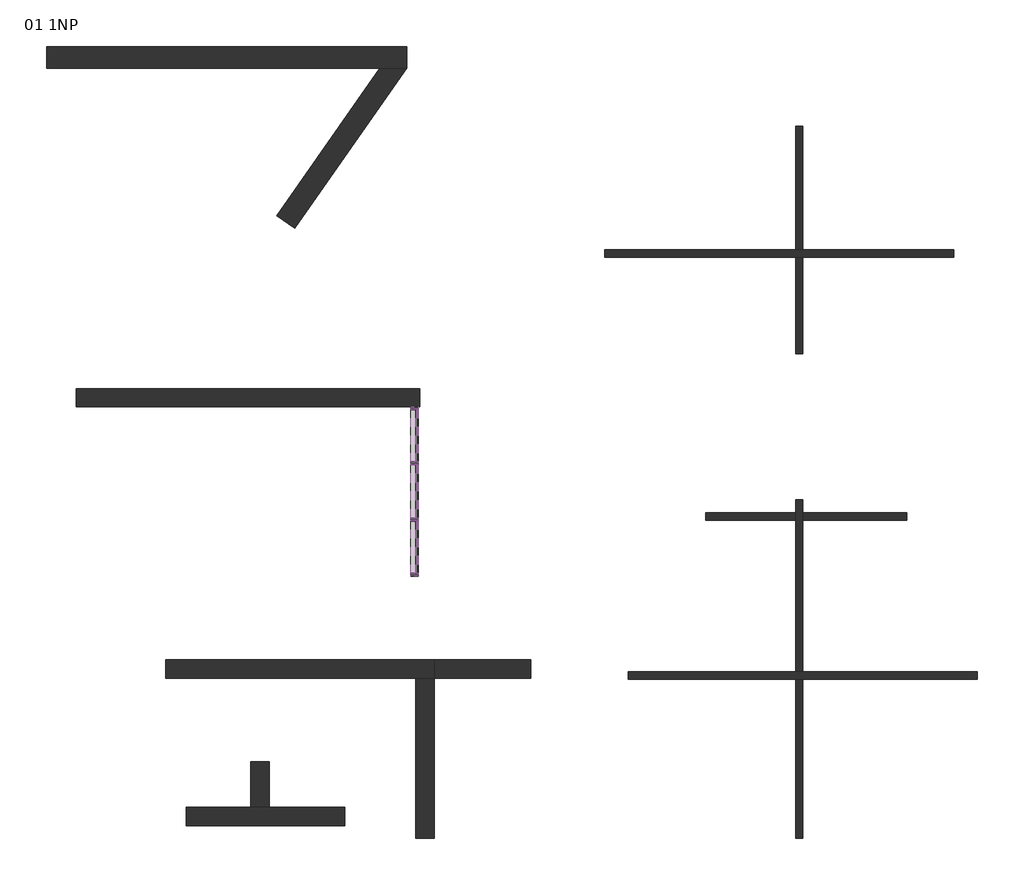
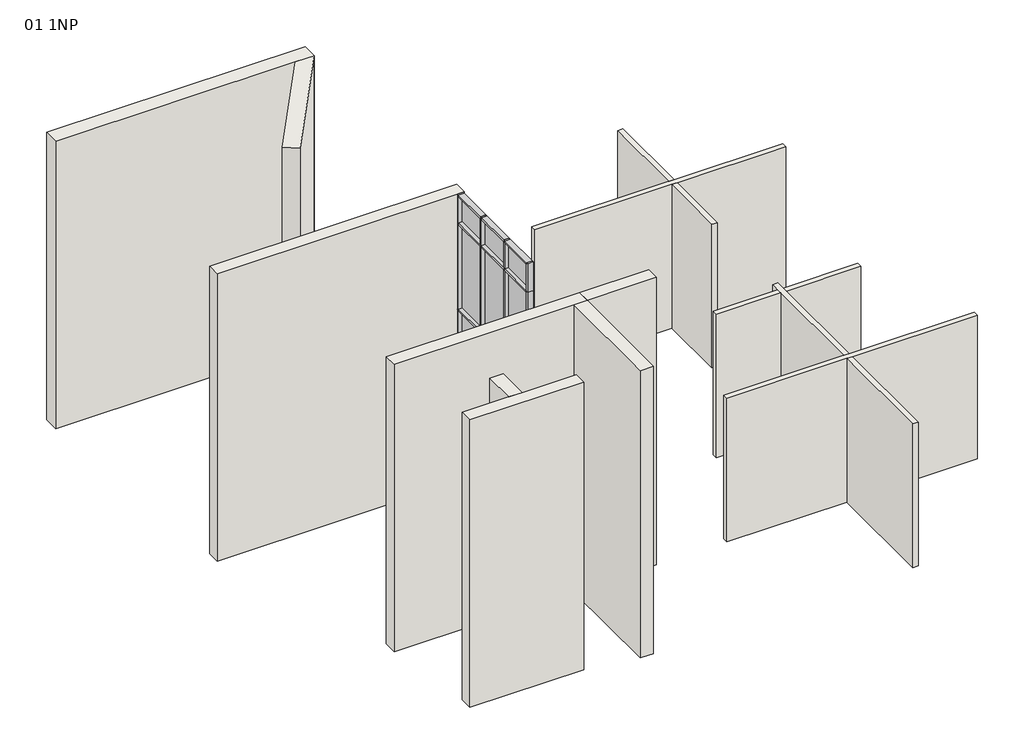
# One storey: 31 members, 14 walls, 12 plates.
"""IFC4 building model written with IfcOpenShell, lengths in millimetres."""

from ifc_helpers import new_model, si_unit, origin, origin_with_axes, place, context, project, spatial, polyline, outline, extrude, faceted_brep, transform, mapped, element, save
from components import rectangular_mullion_50_x_150mm_e14efa60, rectangular_mullion_50_x_150mm_992fb0bb, rectangular_mullion_50_x_150mm_ae8d583d, rectangular_mullion_50_x_150mm_b795b8ac, rectangular_mullion_50_x_150mm_6225e4e3, rectangular_mullion_50_x_150mm_14f10ac7, rectangular_mullion_50_x_150mm_662c37b1, rectangular_mullion_50_x_150mm_6ffebc0f, system_panel_glazed_8dd02efa, system_panel_glazed_773a8fa9, system_panel_glazed_e41b610d, system_panel_glazed_fe8bebd6, system_panel_glazed_96c1c5f2, system_panel_glazed_4c0efa74

model = new_model("IFC4")

# Units and contexts
model_context = context("Model", 3, world=origin())
ifc_project = project(units=[si_unit("LENGTHUNIT", "METRE", prefix="MILLI")], contexts=[model_context])

# Site, building, storey
site = spatial("IfcSite", under=ifc_project)
building = spatial("IfcBuilding", under=site)
storey = spatial("IfcBuildingStorey", under=building, Name="01 1NP", Elevation=0.0)

# Members
placement = place(None, origin())
rectangular_mullion_50_x_150mm_shape = rectangular_mullion_50_x_150mm_e14efa60(model_context)
element("IfcMember", 1, ObjectType="Rectangular Mullion : 50 x 150mm", at=placement, inside=storey, context=model_context, shape_type="MappedRepresentation", body=[
    mapped(rectangular_mullion_50_x_150mm_shape, transform((34112.6661728, 11548.4674082, 8000.0), x_axis=(0.0, 0.0, 1.0), y_axis=(-1.0, 0.0, 0.0), z_axis=(0.0, -1.0, 0.0))),
])
element("IfcMember", 2, ObjectType="Rectangular Mullion : 50 x 150mm", at=placement, inside=storey, context=model_context, shape_type="MappedRepresentation", body=[
    mapped(rectangular_mullion_50_x_150mm_shape, transform((34112.6661728, 13656.8007416, 8000.0), x_axis=(0.0, 0.0, 1.0), y_axis=(-1.0, 0.0, 0.0), z_axis=(0.0, -1.0, 0.0))),
])
rectangular_mullion_50_x_150mm_2_shape = rectangular_mullion_50_x_150mm_992fb0bb(model_context)
element("IfcMember", 3, ObjectType="Rectangular Mullion : 50 x 150mm", at=placement, inside=storey, context=model_context, shape_type="MappedRepresentation", body=[
    mapped(rectangular_mullion_50_x_150mm_2_shape, transform((34112.6661728, 12590.1340749, 8000.0), x_axis=(0.0, 0.0, 1.0), y_axis=(-1.0, 0.0, 0.0), z_axis=(0.0, -1.0, 0.0))),
])
element("IfcMember", 4, ObjectType="Rectangular Mullion : 50 x 150mm", at=placement, inside=storey, context=model_context, shape_type="MappedRepresentation", body=[
    mapped(rectangular_mullion_50_x_150mm_shape, transform((34112.6661728, 14648.4674082, 0.0), x_axis=(0.0, 0.0, -1.0), y_axis=(-1.0, 0.0, 0.0), z_axis=(0.0, 1.0, 0.0))),
])
element("IfcMember", 5, ObjectType="Rectangular Mullion : 50 x 150mm", at=placement, inside=storey, context=model_context, shape_type="MappedRepresentation", body=[
    mapped(rectangular_mullion_50_x_150mm_shape, transform((34112.6661728, 12540.1340749, 0.0), x_axis=(0.0, 0.0, -1.0), y_axis=(-1.0, 0.0, 0.0), z_axis=(0.0, 1.0, 0.0))),
])
element("IfcMember", 6, ObjectType="Rectangular Mullion : 50 x 150mm", at=placement, inside=storey, context=model_context, shape_type="MappedRepresentation", body=[
    mapped(rectangular_mullion_50_x_150mm_2_shape, transform((34112.6661728, 13606.8007416, 0.0), x_axis=(0.0, 0.0, -1.0), y_axis=(-1.0, 0.0, 0.0), z_axis=(0.0, 1.0, 0.0))),
])
rectangular_mullion_50_x_150mm_3_shape = rectangular_mullion_50_x_150mm_ae8d583d(model_context)
element("IfcMember", 7, ObjectType="Rectangular Mullion : 50 x 150mm", at=placement, inside=storey, context=model_context, shape_type="MappedRepresentation", body=[
    mapped(rectangular_mullion_50_x_150mm_3_shape, transform((34112.6661728, 13656.8007416, 2400.0), x_axis=(0.0, 0.0, 1.0), y_axis=(-1.0, 0.0, 0.0), z_axis=(0.0, -1.0, 0.0))),
])
element("IfcMember", 8, ObjectType="Rectangular Mullion : 50 x 150mm", at=placement, inside=storey, context=model_context, shape_type="MappedRepresentation", body=[
    mapped(rectangular_mullion_50_x_150mm_3_shape, transform((34112.6661728, 11548.4674082, 2400.0), x_axis=(0.0, 0.0, 1.0), y_axis=(-1.0, 0.0, 0.0), z_axis=(0.0, -1.0, 0.0))),
])
element("IfcMember", 9, ObjectType="Rectangular Mullion : 50 x 150mm", at=placement, inside=storey, context=model_context, shape_type="MappedRepresentation", body=[
    mapped(rectangular_mullion_50_x_150mm_3_shape, transform((34112.6661728, 13656.8007416, 4800.0), x_axis=(0.0, 0.0, 1.0), y_axis=(-1.0, 0.0, 0.0), z_axis=(0.0, -1.0, 0.0))),
])
element("IfcMember", 10, ObjectType="Rectangular Mullion : 50 x 150mm", at=placement, inside=storey, context=model_context, shape_type="MappedRepresentation", body=[
    mapped(rectangular_mullion_50_x_150mm_3_shape, transform((34112.6661728, 11548.4674082, 4800.0), x_axis=(0.0, 0.0, 1.0), y_axis=(-1.0, 0.0, 0.0), z_axis=(0.0, -1.0, 0.0))),
])
element("IfcMember", 11, ObjectType="Rectangular Mullion : 50 x 150mm", at=placement, inside=storey, context=model_context, shape_type="MappedRepresentation", body=[
    mapped(rectangular_mullion_50_x_150mm_3_shape, transform((34112.6661728, 13656.8007416, 7200.0), x_axis=(0.0, 0.0, 1.0), y_axis=(-1.0, 0.0, 0.0), z_axis=(0.0, -1.0, 0.0))),
])
element("IfcMember", 12, ObjectType="Rectangular Mullion : 50 x 150mm", at=placement, inside=storey, context=model_context, shape_type="MappedRepresentation", body=[
    mapped(rectangular_mullion_50_x_150mm_3_shape, transform((34112.6661728, 11548.4674082, 7200.0), x_axis=(0.0, 0.0, 1.0), y_axis=(-1.0, 0.0, 0.0), z_axis=(0.0, -1.0, 0.0))),
])
rectangular_mullion_50_x_150mm_4_shape = rectangular_mullion_50_x_150mm_b795b8ac(model_context)
element("IfcMember", 13, ObjectType="Rectangular Mullion : 50 x 150mm", at=placement, inside=storey, context=model_context, shape_type="MappedRepresentation", body=[
    mapped(rectangular_mullion_50_x_150mm_4_shape, transform((34112.6661728, 12590.1340749, 2400.0), x_axis=(0.0, 0.0, 1.0), y_axis=(-1.0, 0.0, 0.0), z_axis=(0.0, -1.0, 0.0))),
])
element("IfcMember", 14, ObjectType="Rectangular Mullion : 50 x 150mm", at=placement, inside=storey, context=model_context, shape_type="MappedRepresentation", body=[
    mapped(rectangular_mullion_50_x_150mm_4_shape, transform((34112.6661728, 12590.1340749, 4800.0), x_axis=(0.0, 0.0, 1.0), y_axis=(-1.0, 0.0, 0.0), z_axis=(0.0, -1.0, 0.0))),
])
element("IfcMember", 15, ObjectType="Rectangular Mullion : 50 x 150mm", at=placement, inside=storey, context=model_context, shape_type="MappedRepresentation", body=[
    mapped(rectangular_mullion_50_x_150mm_4_shape, transform((34112.6661728, 12590.1340749, 7200.0), x_axis=(0.0, 0.0, 1.0), y_axis=(-1.0, 0.0, 0.0), z_axis=(0.0, -1.0, 0.0))),
])
rectangular_mullion_50_x_150mm_5_shape = rectangular_mullion_50_x_150mm_6225e4e3(model_context)
element("IfcMember", 16, ObjectType="Rectangular Mullion : 50 x 150mm", at=placement, inside=storey, context=model_context, shape_type="MappedRepresentation", body=[
    mapped(rectangular_mullion_50_x_150mm_5_shape, transform((34112.6661728, 13631.8007416, 0.0), x_axis=(0.0, -1.0, 0.0), y_axis=(-1.0, 0.0, 0.0), z_axis=(0.0, 0.0, -1.0))),
])
element("IfcMember", 17, ObjectType="Rectangular Mullion : 50 x 150mm", at=placement, inside=storey, context=model_context, shape_type="MappedRepresentation", body=[
    mapped(rectangular_mullion_50_x_150mm_5_shape, transform((34112.6661728, 12565.1340749, 0.0), x_axis=(0.0, -1.0, 0.0), y_axis=(-1.0, 0.0, 0.0), z_axis=(0.0, 0.0, -1.0))),
])
element("IfcMember", 18, ObjectType="Rectangular Mullion : 50 x 150mm", at=placement, inside=storey, context=model_context, shape_type="MappedRepresentation", body=[
    mapped(rectangular_mullion_50_x_150mm_5_shape, transform((34112.6661728, 13631.8007416, 2400.0), x_axis=(0.0, -1.0, 0.0), y_axis=(-1.0, 0.0, 0.0), z_axis=(0.0, 0.0, -1.0))),
])
element("IfcMember", 19, ObjectType="Rectangular Mullion : 50 x 150mm", at=placement, inside=storey, context=model_context, shape_type="MappedRepresentation", body=[
    mapped(rectangular_mullion_50_x_150mm_5_shape, transform((34112.6661728, 12565.1340749, 2400.0), x_axis=(0.0, -1.0, 0.0), y_axis=(-1.0, 0.0, 0.0), z_axis=(0.0, 0.0, -1.0))),
])
element("IfcMember", 20, ObjectType="Rectangular Mullion : 50 x 150mm", at=placement, inside=storey, context=model_context, shape_type="MappedRepresentation", body=[
    mapped(rectangular_mullion_50_x_150mm_5_shape, transform((34112.6661728, 13631.8007416, 4800.0), x_axis=(0.0, -1.0, 0.0), y_axis=(-1.0, 0.0, 0.0), z_axis=(0.0, 0.0, -1.0))),
])
element("IfcMember", 21, ObjectType="Rectangular Mullion : 50 x 150mm", at=placement, inside=storey, context=model_context, shape_type="MappedRepresentation", body=[
    mapped(rectangular_mullion_50_x_150mm_5_shape, transform((34112.6661728, 12565.1340749, 4800.0), x_axis=(0.0, -1.0, 0.0), y_axis=(-1.0, 0.0, 0.0), z_axis=(0.0, 0.0, -1.0))),
])
rectangular_mullion_50_x_150mm_6_shape = rectangular_mullion_50_x_150mm_14f10ac7(model_context)
element("IfcMember", 22, ObjectType="Rectangular Mullion : 50 x 150mm", at=placement, inside=storey, context=model_context, shape_type="MappedRepresentation", body=[
    mapped(rectangular_mullion_50_x_150mm_6_shape, transform((34112.6661728, 13631.8007416, 7200.0), x_axis=(0.0, -1.0, 0.0), y_axis=(-1.0, 0.0, 0.0), z_axis=(0.0, 0.0, -1.0))),
])
element("IfcMember", 23, ObjectType="Rectangular Mullion : 50 x 150mm", at=placement, inside=storey, context=model_context, shape_type="MappedRepresentation", body=[
    mapped(rectangular_mullion_50_x_150mm_6_shape, transform((34112.6661728, 12565.1340749, 7200.0), x_axis=(0.0, -1.0, 0.0), y_axis=(-1.0, 0.0, 0.0), z_axis=(0.0, 0.0, -1.0))),
])
rectangular_mullion_50_x_150mm_7_shape = rectangular_mullion_50_x_150mm_662c37b1(model_context)
element("IfcMember", 24, ObjectType="Rectangular Mullion : 50 x 150mm", at=placement, inside=storey, context=model_context, shape_type="MappedRepresentation", body=[
    mapped(rectangular_mullion_50_x_150mm_7_shape, transform((34112.6661728, 11498.4674082, 0.0), x_axis=(0.0, -1.0, 0.0), y_axis=(-1.0, 0.0, 0.0), z_axis=(0.0, 0.0, -1.0))),
])
element("IfcMember", 25, ObjectType="Rectangular Mullion : 50 x 150mm", at=placement, inside=storey, context=model_context, shape_type="MappedRepresentation", body=[
    mapped(rectangular_mullion_50_x_150mm_7_shape, transform((34112.6661728, 11498.4674082, 2400.0), x_axis=(0.0, -1.0, 0.0), y_axis=(-1.0, 0.0, 0.0), z_axis=(0.0, 0.0, -1.0))),
])
element("IfcMember", 26, ObjectType="Rectangular Mullion : 50 x 150mm", at=placement, inside=storey, context=model_context, shape_type="MappedRepresentation", body=[
    mapped(rectangular_mullion_50_x_150mm_7_shape, transform((34112.6661728, 11498.4674082, 4800.0), x_axis=(0.0, -1.0, 0.0), y_axis=(-1.0, 0.0, 0.0), z_axis=(0.0, 0.0, -1.0))),
])
rectangular_mullion_50_x_150mm_8_shape = rectangular_mullion_50_x_150mm_6ffebc0f(model_context)
element("IfcMember", 27, ObjectType="Rectangular Mullion : 50 x 150mm", at=placement, inside=storey, context=model_context, shape_type="MappedRepresentation", body=[
    mapped(rectangular_mullion_50_x_150mm_8_shape, transform((34112.6661728, 11498.4674082, 7200.0), x_axis=(0.0, -1.0, 0.0), y_axis=(-1.0, 0.0, 0.0), z_axis=(0.0, 0.0, -1.0))),
])
element("IfcMember", 28, ObjectType="Rectangular Mullion : 50 x 150mm", at=placement, inside=storey, context=model_context, shape_type="MappedRepresentation", body=[
    mapped(rectangular_mullion_50_x_150mm_8_shape, transform((34112.6661728, 14698.4674082, 8000.0), x_axis=(0.0, 1.0, 0.0), y_axis=(-1.0, 0.0, 0.0), z_axis=(0.0, 0.0, 1.0))),
])
element("IfcMember", 29, ObjectType="Rectangular Mullion : 50 x 150mm", at=placement, inside=storey, context=model_context, shape_type="MappedRepresentation", body=[
    mapped(rectangular_mullion_50_x_150mm_7_shape, transform((34112.6661728, 14698.4674082, 2400.0), x_axis=(0.0, 1.0, 0.0), y_axis=(-1.0, 0.0, 0.0), z_axis=(0.0, 0.0, 1.0))),
])
element("IfcMember", 30, ObjectType="Rectangular Mullion : 50 x 150mm", at=placement, inside=storey, context=model_context, shape_type="MappedRepresentation", body=[
    mapped(rectangular_mullion_50_x_150mm_7_shape, transform((34112.6661728, 14698.4674082, 4800.0), x_axis=(0.0, 1.0, 0.0), y_axis=(-1.0, 0.0, 0.0), z_axis=(0.0, 0.0, 1.0))),
])
element("IfcMember", 31, ObjectType="Rectangular Mullion : 50 x 150mm", at=placement, inside=storey, context=model_context, shape_type="MappedRepresentation", body=[
    mapped(rectangular_mullion_50_x_150mm_7_shape, transform((34112.6661728, 14698.4674082, 7200.0), x_axis=(0.0, 1.0, 0.0), y_axis=(-1.0, 0.0, 0.0), z_axis=(0.0, 0.0, 1.0))),
])

# Plates
system_panel_glazed_shape = system_panel_glazed_8dd02efa(model_context)
element("IfcPlate", 32, ObjectType="System Panel : Glazed", at=placement, inside=storey, context=model_context, shape_type="MappedRepresentation", body=[
    mapped(system_panel_glazed_shape, transform((34112.6661728, 14152.6340749, 50.0), x_axis=(0.0, -1.0, 0.0), y_axis=(1.0, 0.0, 0.0), z_axis=(0.0, 0.0, 1.0))),
])
element("IfcPlate", 33, ObjectType="System Panel : Glazed", at=placement, inside=storey, context=model_context, shape_type="MappedRepresentation", body=[
    mapped(system_panel_glazed_shape, transform((34112.6661728, 12044.3007416, 50.0), x_axis=(0.0, -1.0, 0.0), y_axis=(1.0, 0.0, 0.0), z_axis=(0.0, 0.0, 1.0))),
])
system_panel_glazed_2_shape = system_panel_glazed_773a8fa9(model_context)
element("IfcPlate", 34, ObjectType="System Panel : Glazed", at=placement, inside=storey, context=model_context, shape_type="MappedRepresentation", body=[
    mapped(system_panel_glazed_2_shape, transform((34112.6661728, 13098.4674082, 50.0), x_axis=(0.0, -1.0, 0.0), y_axis=(1.0, 0.0, 0.0), z_axis=(0.0, 0.0, 1.0))),
])
system_panel_glazed_3_shape = system_panel_glazed_e41b610d(model_context)
element("IfcPlate", 35, ObjectType="System Panel : Glazed", at=placement, inside=storey, context=model_context, shape_type="MappedRepresentation", body=[
    mapped(system_panel_glazed_3_shape, transform((34112.6661728, 14152.6340749, 2425.0), x_axis=(0.0, -1.0, 0.0), y_axis=(1.0, 0.0, 0.0), z_axis=(0.0, 0.0, 1.0))),
])
element("IfcPlate", 36, ObjectType="System Panel : Glazed", at=placement, inside=storey, context=model_context, shape_type="MappedRepresentation", body=[
    mapped(system_panel_glazed_3_shape, transform((34112.6661728, 12044.3007416, 2425.0), x_axis=(0.0, -1.0, 0.0), y_axis=(1.0, 0.0, 0.0), z_axis=(0.0, 0.0, 1.0))),
])
element("IfcPlate", 37, ObjectType="System Panel : Glazed", at=placement, inside=storey, context=model_context, shape_type="MappedRepresentation", body=[
    mapped(system_panel_glazed_3_shape, transform((34112.6661728, 14152.6340749, 4825.0), x_axis=(0.0, -1.0, 0.0), y_axis=(1.0, 0.0, 0.0), z_axis=(0.0, 0.0, 1.0))),
])
element("IfcPlate", 38, ObjectType="System Panel : Glazed", at=placement, inside=storey, context=model_context, shape_type="MappedRepresentation", body=[
    mapped(system_panel_glazed_3_shape, transform((34112.6661728, 12044.3007416, 4825.0), x_axis=(0.0, -1.0, 0.0), y_axis=(1.0, 0.0, 0.0), z_axis=(0.0, 0.0, 1.0))),
])
system_panel_glazed_4_shape = system_panel_glazed_fe8bebd6(model_context)
element("IfcPlate", 39, ObjectType="System Panel : Glazed", at=placement, inside=storey, context=model_context, shape_type="MappedRepresentation", body=[
    mapped(system_panel_glazed_4_shape, transform((34112.6661728, 13098.4674082, 2425.0), x_axis=(0.0, -1.0, 0.0), y_axis=(1.0, 0.0, 0.0), z_axis=(0.0, 0.0, 1.0))),
])
element("IfcPlate", 40, ObjectType="System Panel : Glazed", at=placement, inside=storey, context=model_context, shape_type="MappedRepresentation", body=[
    mapped(system_panel_glazed_4_shape, transform((34112.6661728, 13098.4674082, 4825.0), x_axis=(0.0, -1.0, 0.0), y_axis=(1.0, 0.0, 0.0), z_axis=(0.0, 0.0, 1.0))),
])
system_panel_glazed_5_shape = system_panel_glazed_96c1c5f2(model_context)
element("IfcPlate", 41, ObjectType="System Panel : Glazed", at=placement, inside=storey, context=model_context, shape_type="MappedRepresentation", body=[
    mapped(system_panel_glazed_5_shape, transform((34112.6661728, 14152.6340749, 7225.0), x_axis=(0.0, -1.0, 0.0), y_axis=(1.0, 0.0, 0.0), z_axis=(0.0, 0.0, 1.0))),
])
element("IfcPlate", 42, ObjectType="System Panel : Glazed", at=placement, inside=storey, context=model_context, shape_type="MappedRepresentation", body=[
    mapped(system_panel_glazed_5_shape, transform((34112.6661728, 12044.3007416, 7225.0), x_axis=(0.0, -1.0, 0.0), y_axis=(1.0, 0.0, 0.0), z_axis=(0.0, 0.0, 1.0))),
])
system_panel_glazed_6_shape = system_panel_glazed_4c0efa74(model_context)
element("IfcPlate", 43, ObjectType="System Panel : Glazed", at=placement, inside=storey, context=model_context, shape_type="MappedRepresentation", body=[
    mapped(system_panel_glazed_6_shape, transform((34112.6661728, 13098.4674082, 7225.0), x_axis=(0.0, -1.0, 0.0), y_axis=(1.0, 0.0, 0.0), z_axis=(0.0, 0.0, 1.0))),
])

# Walls
element("IfcWall", 44, ObjectType="Vnejsi - Cihla na kov.skeletu", at=placement, inside=storey, context=model_context, shape_type="Brep", body=[
    faceted_brep([(29409.371621, 9563.1265002, 0.0), (34137.6661728, 9563.1265002, 0.0), (34487.6661728, 9563.1265002, 0.0), (34487.6661728, 9563.1265002, 8000.0), (34137.6661728, 9563.1265002, 8000.0), (29409.371621, 9563.1265002, 8000.0), (29409.371621, 9913.1265002, 0.0), (29409.371621, 9913.1265002, 8000.0), (34487.6661728, 9913.1265002, 8000.0), (34487.6661728, 9913.1265002, 0.0)], [[[0, 1, 2, 3, 4, 5]], [[6, 7, 8, 9]], [[2, 1, 0, 6, 9]], [[5, 4, 3, 8, 7]], [[0, 5, 7, 6]], [[3, 2, 9, 8]]]),
])
element("IfcWall", 45, ObjectType="Vnejsi - Cihla na kov.skeletu", at=placement, inside=storey, context=model_context, shape_type="SweptSolid", body=[
    extrude(outline(polyline([(34137.6661728, 6538.1265002), (34137.6661728, 9563.1265002), (34487.6661728, 9563.1265002), (34487.6661728, 6538.1265002), (34137.6661728, 6538.1265002)])), origin_with_axes(), (0.0, 0.0, 1.0), 8000.0),
])
element("IfcWall", 46, ObjectType="Vnejsi - Cihla na kov.skeletu", at=placement, inside=storey, context=model_context, shape_type="Brep", body=[
    faceted_brep([(29795.6362438, 6776.0085352, 0.0), (32795.6362438, 6776.0085352, 0.0), (32795.6362438, 6776.0085352, 8000.0), (29795.6362438, 6776.0085352, 8000.0), (29795.6362438, 7126.0085352, 0.0), (29795.6362438, 7126.0085352, 8000.0), (31020.6362438, 7126.0085352, 8000.0), (31370.6362438, 7126.0085352, 8000.0), (32795.6362438, 7126.0085352, 8000.0), (32795.6362438, 7126.0085352, 0.0), (31370.6362438, 7126.0085352, 0.0), (31020.6362438, 7126.0085352, 0.0)], [[[0, 1, 2, 3]], [[4, 5, 6, 7, 8, 9, 10, 11]], [[1, 0, 4, 11, 10, 9]], [[2, 1, 9, 8]], [[3, 2, 8, 7, 6, 5]], [[0, 3, 5, 4]]]),
])
element("IfcWall", 47, ObjectType="Vnejsi - Cihla na kov.skeletu", at=placement, inside=storey, context=model_context, shape_type="SweptSolid", body=[
    extrude(outline(polyline([(31370.6362438, 7989.0085352), (31370.6362438, 7126.0085352), (31020.6362438, 7126.0085352), (31020.6362438, 7989.0085352), (31370.6362438, 7989.0085352)])), origin_with_axes(), (0.0, 0.0, 1.0), 8000.0),
])
element("IfcWall", 48, ObjectType="Vnejsi - Cihla na kov.skeletu", at=placement, inside=storey, context=model_context, shape_type="SweptSolid", body=[
    extrude(outline(polyline([(36307.6661728, 9563.1265002), (34487.6661728, 9563.1265002), (34487.6661728, 9913.1265002), (36307.6661728, 9913.1265002), (36307.6661728, 9563.1265002)])), origin_with_axes(), (0.0, 0.0, 1.0), 8000.0),
])
element("IfcWall", 49, ObjectType="CW 102-85-140p", at=placement, inside=storey, context=model_context, shape_type="SweptSolid", body=[
    extrude(outline(polyline([(34212.6661728, 14698.4674082), (27712.6661728, 14698.4674082), (27712.6661728, 15037.4674082), (34212.6661728, 15037.4674082), (34212.6661728, 14698.4674082)])), origin_with_axes(), (0.0, 0.0, 1.0), 8000.0),
])
element("IfcWall", 50, ObjectType="CW 102-85-215p", at=placement, inside=storey, context=model_context, shape_type="Brep", body=[
    faceted_brep([(27155.633835, 21097.1949196, 0.0), (33457.9905347, 21097.1949196, 0.0), (33963.3912144, 21097.1949196, 0.0), (33963.3912144, 21097.1949196, 8000.0), (33457.9905347, 21097.1949196, 8000.0), (27155.633835, 21097.1949196, 8000.0), (27155.633835, 21511.1949196, 0.0), (27155.633835, 21511.1949196, 8000.0), (33963.3912144, 21511.1949196, 8000.0), (33963.3912144, 21511.1949196, 0.0)], [[[0, 1, 2, 3, 4, 5]], [[6, 7, 8, 9]], [[2, 1, 0, 6, 9]], [[5, 4, 3, 8, 7]], [[0, 5, 7, 6]], [[3, 2, 9, 8]]]),
])
element("IfcWall", 51, ObjectType="CW 102-85-215p", at=placement, inside=storey, context=model_context, shape_type="SweptSolid", body=[
    extrude(outline(polyline([(31506.4789037, 18310.1474736), (33457.9905347, 21097.1949196), (33963.3912144, 21097.1949196), (31845.60785, 18072.686829), (31506.4789037, 18310.1474736)])), origin_with_axes(), (0.0, 0.0, 1.0), 8000.0),
])
element("IfcWall", 52, ObjectType="Interior - 138mm Partition (1-hr)", at=placement, inside=storey, context=model_context, shape_type="Brep", body=[
    faceted_brep([(37712.6661728, 17529.4674082, 0.0), (41318.4161728, 17529.4674082, 0.0), (41456.9161728, 17529.4674082, 0.0), (44312.6661728, 17529.4674082, 0.0), (44312.6661728, 17529.4674082, 4000.0), (41456.9161728, 17529.4674082, 4000.0), (41318.4161728, 17529.4674082, 4000.0), (37712.6661728, 17529.4674082, 4000.0), (37712.6661728, 17667.9674082, 0.0), (37712.6661728, 17667.9674082, 4000.0), (41318.4161728, 17667.9674082, 4000.0), (41456.9161728, 17667.9674082, 4000.0), (44312.6661728, 17667.9674082, 4000.0), (44312.6661728, 17667.9674082, 0.0), (41456.9161728, 17667.9674082, 0.0), (41318.4161728, 17667.9674082, 0.0)], [[[0, 1, 2, 3, 4, 5, 6, 7]], [[8, 9, 10, 11, 12, 13, 14, 15]], [[3, 2, 1, 0, 8, 15, 14, 13]], [[4, 3, 13, 12]], [[7, 6, 5, 4, 12, 11, 10, 9]], [[0, 7, 9, 8]]]),
])
element("IfcWall", 53, ObjectType="Interior - 138mm Partition (1-hr)", at=placement, inside=storey, context=model_context, shape_type="Brep", body=[
    faceted_brep([(38157.1604609, 9548.624448, 0.0), (41318.4161728, 9548.624448, 0.0), (41456.9161728, 9548.624448, 0.0), (44757.1604609, 9548.624448, 0.0), (44757.1604609, 9548.624448, 4000.0), (41456.9161728, 9548.624448, 4000.0), (41318.4161728, 9548.624448, 4000.0), (38157.1604609, 9548.624448, 4000.0), (38157.1604609, 9687.124448, 0.0), (38157.1604609, 9687.124448, 4000.0), (41318.4161728, 9687.124448, 4000.0), (41456.9161728, 9687.124448, 4000.0), (44757.1604609, 9687.124448, 4000.0), (44757.1604609, 9687.124448, 0.0), (41456.9161728, 9687.124448, 0.0), (41318.4161728, 9687.124448, 0.0)], [[[0, 1, 2, 3, 4, 5, 6, 7]], [[8, 9, 10, 11, 12, 13, 14, 15]], [[3, 2, 1, 0, 8, 15, 14, 13]], [[4, 3, 13, 12]], [[7, 6, 5, 4, 12, 11, 10, 9]], [[0, 7, 9, 8]]]),
])
element("IfcWall", 54, ObjectType="Interior - 138mm Partition (1-hr)", at=placement, inside=storey, context=model_context, shape_type="Brep", body=[
    faceted_brep([(41456.9161728, 12938.1265002, 0.0), (41456.9161728, 12938.1265002, 4000.0), (41456.9161728, 12696.9757187, 4000.0), (41456.9161728, 12558.4757187, 4000.0), (41456.9161728, 9687.124448, 4000.0), (41456.9161728, 9687.124448, 0.0), (41456.9161728, 12558.4757187, 0.0), (41456.9161728, 12696.9757187, 0.0), (41318.4161728, 12938.1265002, 4000.0), (41318.4161728, 12938.1265002, 0.0), (41318.4161728, 12696.9757187, 0.0), (41318.4161728, 12558.4757187, 0.0), (41318.4161728, 9687.124448, 0.0), (41318.4161728, 9687.124448, 4000.0), (41318.4161728, 12558.4757187, 4000.0), (41318.4161728, 12696.9757187, 4000.0)], [[[0, 1, 2, 3, 4, 5, 6, 7]], [[8, 9, 10, 11, 12, 13, 14, 15]], [[9, 0, 7, 6, 5, 12, 11, 10]], [[1, 0, 9, 8]], [[1, 8, 15, 14, 13, 4, 3, 2]], [[5, 4, 13, 12]]]),
    faceted_brep([(41456.9161728, 6538.1265002, 4000.0), (41456.9161728, 6538.1265002, 0.0), (41456.9161728, 9548.624448, 0.0), (41456.9161728, 9548.624448, 4000.0), (41318.4161728, 6538.1265002, 0.0), (41318.4161728, 6538.1265002, 4000.0), (41318.4161728, 9548.624448, 4000.0), (41318.4161728, 9548.624448, 0.0)], [[[0, 1, 2, 3]], [[4, 5, 6, 7]], [[1, 4, 7, 2]], [[5, 0, 3, 6]], [[1, 0, 5, 4]], [[3, 2, 7, 6]]]),
])
element("IfcWall", 55, ObjectType="Interior - 138mm Partition (1-hr)", at=placement, inside=storey, context=model_context, shape_type="SweptSolid", body=[
    extrude(outline(polyline([(41456.9161728, 15704.1949196), (41318.4161728, 15704.1949196), (41318.4161728, 17529.4674082), (41456.9161728, 17529.4674082), (41456.9161728, 15704.1949196)])), origin_with_axes(), (0.0, 0.0, 1.0), 4000.0),
    extrude(outline(polyline([(41318.4161728, 20004.1949196), (41456.9161728, 20004.1949196), (41456.9161728, 17667.9674082), (41318.4161728, 17667.9674082), (41318.4161728, 20004.1949196)])), origin_with_axes(), (0.0, 0.0, 1.0), 4000.0),
])
element("IfcWall", 56, ObjectType="Interior - 138mm Partition (1-hr)", at=placement, inside=storey, context=model_context, shape_type="SweptSolid", body=[
    extrude(outline(polyline([(41318.4161728, 12558.4757187), (39621.8182064, 12558.4757187), (39621.8182064, 12696.9757187), (41318.4161728, 12696.9757187), (41318.4161728, 12558.4757187)])), origin_with_axes(), (0.0, 0.0, 1.0), 4000.0),
])
element("IfcWall", 57, ObjectType="Interior - 138mm Partition (1-hr)", at=placement, inside=storey, context=model_context, shape_type="SweptSolid", body=[
    extrude(outline(polyline([(43421.8182064, 12558.4757187), (41456.9161728, 12558.4757187), (41456.9161728, 12696.9757187), (43421.8182064, 12696.9757187), (43421.8182064, 12558.4757187)])), origin_with_axes(), (0.0, 0.0, 1.0), 4000.0),
])

save(model, "model.ifc")
